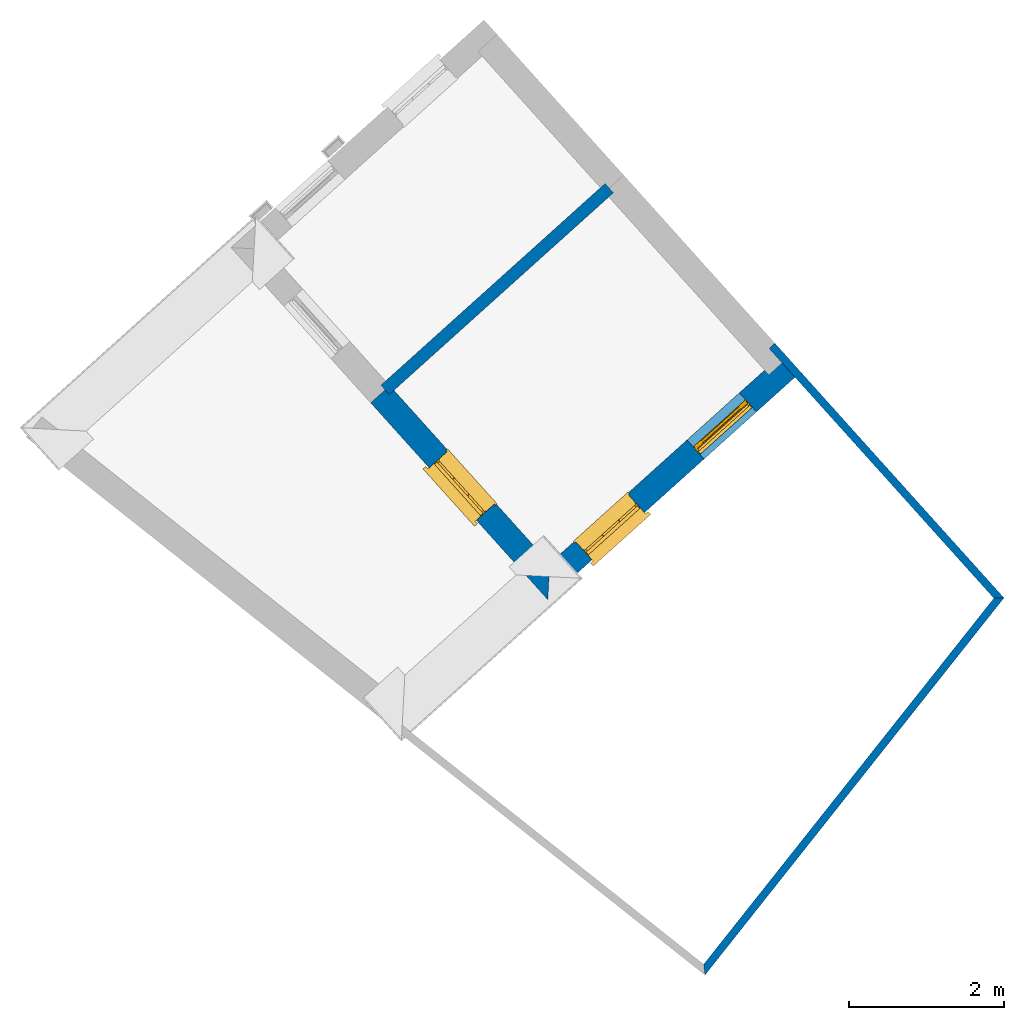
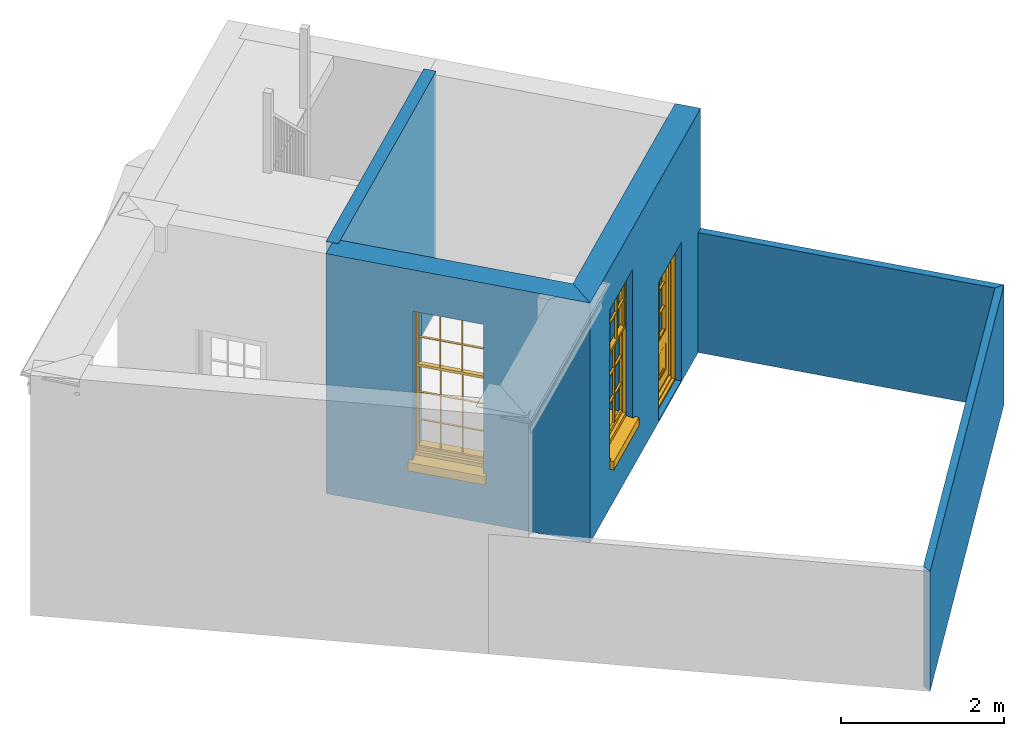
# One storey, part 2 of 6: 5 walls, 2 windows, 1 door, 3 openings.
"""IFC4 building model written with IfcOpenShell, lengths in metres."""

from ifc_helpers import new_model, si_unit, frame, origin, origin_with_axes, place, context, subcontext, project, spatial, polyline, outline, extrude, faceted_brep, source, transform, mapped, material, layer, layer_set, layer_usage, type_object, type_shapes, element, fill, save


model = new_model("IFC4")

# Units and contexts
model_context = context("Model", 3, world=origin_with_axes())
body_context = subcontext(model_context, "Body", "Model", "MODEL_VIEW")
ifc_project = project(units=[si_unit("PLANEANGLEUNIT", "RADIAN"), si_unit("MASSUNIT", "GRAM", prefix="KILO"), si_unit("FORCEUNIT", "NEWTON", prefix="KILO"), si_unit("LENGTHUNIT", "METRE"), si_unit("AREAUNIT", "SQUARE_METRE"), si_unit("VOLUMEUNIT", "CUBIC_METRE")], contexts=[model_context, model_context])

# Sites, building, storey
site_1_placement = place(None, origin_with_axes())
site_1 = spatial("IfcSite", under=ifc_project, at=site_1_placement, Name="Tamar")
site_2_placement = place(site_1_placement, origin_with_axes())
site_2 = spatial("IfcSite", under=site_1, at=site_2_placement, Name="Site plot-6", CompositionType="ELEMENT")
building_placement = place(None, origin_with_axes())
building = spatial("IfcBuilding", under=site_2, at=building_placement, Name="Building plot-6", CompositionType="ELEMENT")
storey_placement = place(None, frame((0.0, 0.0, 24.5), z_axis=(0.0, 0.0, 1.0), x_axis=(1.0, 0.0, 0.0)))
storey = spatial("IfcBuildingStorey", under=building, at=storey_placement, Name="plot-6 0", CompositionType="ELEMENT", Elevation=24.5)

# Wall, opening, window
ifc_material_1 = material(Name="Masonry")
ifc_layer_1 = layer(ifc_material_1, 0.33, ventilated=False)
ifc_layer_set_1 = layer_set([ifc_layer_1], Name="exterior_0.08_0.25")
ifc_layer_usage_1 = layer_usage(ifc_layer_set_1, "AXIS2", "POSITIVE", -0.25)
wall_type_1 = type_object("IfcWallType", Name="exterior_0.08_0.25", PredefinedType="SOLIDWALL", material=ifc_layer_set_1)
wall_1_placement = place(storey_placement, frame((235.645446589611, 280.373247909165, 0.0), z_axis=(0.0, 0.0, 1.0), x_axis=(0.668853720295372, -0.74339404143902, 0.0)))
wall_1 = element("IfcWall", 1, at=wall_1_placement, inside=storey, type_object=wall_type_1, material=ifc_layer_usage_1, Name="exterior", context=body_context, shape_type="SweptSolid", body=[
    extrude(outline(polyline([(-3.03267160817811e-15, 0.080000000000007), (-4.04272714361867e-15, -0.250000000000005), (3.41673048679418, -0.250000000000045), (3.08673048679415, 0.0799999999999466), (-3.03267160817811e-15, 0.080000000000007)])), origin_with_axes(), (0.0, 0.0, 1.0), 3.6),
])
opening_1_placement = place(wall_1_placement, frame((1.12836524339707, 0.0, 0.75)))
opening_1 = element("IfcOpeningElement", 2, at=opening_1_placement, cuts=wall_1, Name="My Opening", ObjectType="Opening", context=body_context, shape_type="SweptSolid", body=[
    extrude(outline(polyline([(0.0, -0.270000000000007), (0.909999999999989, -0.270000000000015), (0.909999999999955, 1.10000000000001), (-3.44169137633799e-14, 1.10000000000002), (0.0, -0.270000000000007)])), origin_with_axes(), (0.0, 0.0, 1.0), 2.23),
])
window_type = type_object("IfcWindowType", Name="sash_big_taller", PartitioningType="DOUBLE_PANEL_HORIZONTAL", PredefinedType="NOTDEFINED")
shared_shape_1 = source(origin(), body_context, "Body", "Brep", [
    faceted_brep([(0.033125, 0.145, 1.385209), (0.01, 0.145, 1.385209), (0.033125, 0.145, 1.786042), (0.876875, 0.145, 1.385209), (0.876875, 0.145, 1.786042), (0.9, 0.145, 1.385209), (0.876875, 0.145, 1.796042), (0.876875, 0.145, 2.196875), (0.9, 0.145, 2.22), (0.033125, 0.145, 2.196875), (0.033125, 0.145, 1.796042), (0.01, 0.145, 2.22), (0.876875, 0.115, 1.786042), (0.876875, 0.115, 1.385209), (0.9, 0.115, 1.347084), (0.033125, 0.115, 2.196875), (0.01, 0.115, 2.22), (0.033125, 0.115, 1.796042), (0.01, 0.115, 1.347084), (0.033125, 0.115, 1.385209), (0.033125, 0.115, 1.786042), (0.876875, 0.115, 2.196875), (0.876875, 0.115, 1.796042), (0.9, 0.115, 2.22), (0.033125, 0.145, 1.347084), (0.01, 0.145, 1.347084), (0.033125, 0.145, 0.94625), (0.876875, 0.145, 1.347084), (0.876875, 0.145, 0.94625), (0.9, 0.145, 1.347084), (0.876875, 0.145, 0.52625), (0.876875, 0.145, 0.125417), (0.9, 0.145, 0.077167), (0.033125, 0.145, 0.125417), (0.033125, 0.145, 0.52625), (0.01, 0.145, 0.077167), (-0.0425, 0.0, 0.01), (-0.0425, -0.05, 0.001667), (0.0, 0.0, 0.01), (0.9525, 0.0, 0.01), (0.91, 0.0, 0.01), (0.9525, -0.05, 0.001667), (-0.02, 0.33, 0.077167), (0.0, 0.33, 0.077167), (-0.02, 0.36, 0.077167), (0.0, 0.19, 0.077167), (0.01, 0.19, 0.077167), (0.91, 0.19, 0.077167), (0.91, 0.33, 0.077167), (0.9, 0.19, 0.077167), (0.93, 0.33, 0.077167), (0.93, 0.36, 0.077167), (0.01, 0.175, 1.385209), (0.9, 0.175, 1.385209), (0.876875, 0.175, 0.125417), (0.876875, 0.175, 0.52625), (0.9, 0.175, 0.077167), (0.876875, 0.175, 0.94625), (0.876875, 0.175, 1.347084), (0.033125, 0.175, 0.125417), (0.01, 0.175, 0.077167), (0.033125, 0.175, 0.52625), (0.033125, 0.175, 1.347084), (0.033125, 0.175, 0.94625), (-0.02, 0.33, 0.052167), (-0.02, 0.36, 0.052167), (0.93, 0.36, 0.052167), (0.93, 0.33, 0.052167), (0.91, 0.33, 0.052167), (0.0, 0.33, 0.052167), (0.91, 0.1, 0.026667), (0.0, 0.1, 0.026667), (-0.0425, -0.05, -0.123333), (0.9525, -0.05, -0.123333), (-0.0425, 0.0, -0.123333), (0.9525, 0.0, -0.123333), (0.01, 0.19, 2.22), (0.9, 0.19, 2.22), (0.0, 0.19, 2.23), (0.91, 0.19, 2.23), (0.01, 0.1, 0.077167), (0.9, 0.1, 0.077167), (0.592292, 0.145, 0.125417), (0.592292, 0.175, 0.125417), (0.317708, 0.175, 0.125417), (0.317708, 0.145, 0.125417), (0.592292, 0.145, 0.53625), (0.317708, 0.145, 0.53625), (0.317708, 0.145, 0.52625), (0.592292, 0.145, 0.52625), (0.592292, 0.175, 0.53625), (0.317708, 0.175, 0.53625), (0.592292, 0.115, 1.796042), (0.592292, 0.145, 1.796042), (0.317708, 0.145, 1.796042), (0.317708, 0.115, 1.796042), (0.317708, 0.115, 1.786042), (0.592292, 0.115, 1.786042), (0.317708, 0.145, 1.786042), (0.592292, 0.145, 1.786042), (0.602292, 0.115, 1.786042), (0.592292, 0.115, 1.385209), (0.602292, 0.115, 1.385209), (0.602292, 0.145, 1.385209), (0.592292, 0.145, 1.385209), (0.602292, 0.145, 1.786042), (0.876875, 0.145, 0.53625), (0.876875, 0.175, 0.53625), (0.602292, 0.175, 0.53625), (0.602292, 0.145, 0.53625), (0.317708, 0.175, 0.52625), (0.307708, 0.175, 0.125417), (0.307708, 0.175, 0.52625), (0.602292, 0.175, 0.52625), (0.602292, 0.175, 0.125417), (0.592292, 0.175, 0.52625), (0.307708, 0.175, 0.53625), (0.033125, 0.175, 0.53625), (0.317708, 0.175, 1.347084), (0.317708, 0.175, 0.94625), (0.307708, 0.175, 0.94625), (0.307708, 0.175, 1.347084), (0.602292, 0.175, 1.347084), (0.602292, 0.175, 0.94625), (0.592292, 0.175, 0.94625), (0.592292, 0.175, 1.347084), (0.307708, 0.145, 0.52625), (0.307708, 0.145, 0.125417), (0.307708, 0.145, 0.53625), (0.033125, 0.145, 0.53625), (0.307708, 0.145, 1.347084), (0.307708, 0.145, 0.94625), (0.592292, 0.145, 1.347084), (0.592292, 0.145, 0.94625), (0.317708, 0.145, 0.94625), (0.317708, 0.145, 1.347084), (0.602292, 0.145, 0.94625), (0.602292, 0.145, 1.347084), (0.602292, 0.145, 0.52625), (0.602292, 0.145, 0.125417), (0.307708, 0.115, 1.796042), (0.307708, 0.115, 1.786042), (0.307708, 0.115, 1.385209), (0.317708, 0.115, 1.385209), (0.317708, 0.115, 2.196875), (0.307708, 0.115, 2.196875), (0.602292, 0.115, 2.196875), (0.592292, 0.115, 2.196875), (0.602292, 0.115, 1.796042), (0.602292, 0.145, 1.796042), (0.307708, 0.145, 1.796042), (0.307708, 0.145, 2.196875), (0.317708, 0.145, 2.196875), (0.592292, 0.145, 2.196875), (0.602292, 0.145, 2.196875), (0.307708, 0.145, 1.786042), (0.317708, 0.145, 1.385209), (0.307708, 0.145, 1.385209), (0.876875, 0.175, 0.93625), (0.033125, 0.175, 0.93625), (0.033125, 0.145, 0.93625), (0.876875, 0.145, 0.93625), (0.91, 0.1, 2.23), (0.9, 0.1, 2.22), (0.01, 0.1, 2.22), (0.0, 0.1, 2.23), (0.91, 0.0, 0.0), (0.0, 0.0, 0.0), (0.91, 0.33, 0.0), (0.0, 0.33, 0.0), (0.317708, 0.145, 0.93625), (0.592292, 0.145, 0.93625), (0.317708, 0.175, 0.93625), (0.307708, 0.175, 0.93625), (0.602292, 0.175, 0.93625), (0.592292, 0.175, 0.93625), (0.307708, 0.145, 0.93625), (0.602292, 0.145, 0.93625)], [[[0, 1, 2]], [[3, 4, 5]], [[6, 7, 8]], [[9, 10, 11]], [[12, 13, 14]], [[15, 16, 17]], [[18, 19, 20]], [[21, 22, 23]], [[24, 25, 26]], [[27, 28, 29]], [[30, 31, 32]], [[33, 34, 35]], [[14, 27, 29]], [[25, 24, 18]], [[36, 37, 38]], [[39, 40, 41]], [[42, 43, 44]], [[45, 46, 43]], [[47, 48, 49]], [[50, 51, 48]], [[1, 0, 52]], [[5, 53, 3]], [[54, 55, 56]], [[57, 58, 53]], [[59, 60, 61]], [[62, 63, 52]], [[48, 43, 46, 49]], [[51, 44, 43, 48]], [[64, 42, 44, 65]], [[65, 44, 51, 66]], [[66, 51, 50, 67]], [[65, 66, 68, 69]], [[60, 56, 49, 46]], [[70, 71, 38, 40]], [[37, 41, 40, 38]], [[37, 72, 73, 41]], [[74, 75, 73, 72]], [[8, 11, 76, 77]], [[76, 78, 79, 77]], [[32, 35, 80, 81]], [[81, 80, 71, 70]], [[82, 83, 84, 85]], [[86, 87, 88, 89]], [[86, 90, 91, 87]], [[92, 93, 94, 95]], [[92, 95, 96, 97]], [[96, 98, 99, 97]], [[100, 97, 101, 102]], [[103, 104, 99, 105]], [[97, 99, 104, 101]], [[102, 103, 105, 100]], [[106, 107, 108, 109]], [[110, 84, 111, 112]], [[113, 114, 83, 115]], [[116, 112, 61, 117]], [[90, 115, 110, 91]], [[118, 119, 120, 121]], [[122, 123, 124, 125]], [[113, 108, 107, 55]], [[126, 112, 111, 127]], [[34, 61, 112, 126]], [[89, 115, 83, 82]], [[88, 110, 115, 89]], [[85, 84, 110, 88]], [[128, 116, 117, 129]], [[130, 121, 120, 131]], [[132, 125, 124, 133]], [[134, 119, 118, 135]], [[136, 123, 122, 137]], [[138, 113, 55, 30]], [[139, 114, 113, 138]], [[138, 30, 106, 109]], [[88, 126, 127, 85]], [[138, 89, 82, 139]], [[137, 132, 133, 136]], [[128, 129, 34, 126]], [[135, 130, 131, 134]], [[140, 17, 20, 141]], [[96, 141, 142, 143]], [[144, 145, 140, 95]], [[146, 147, 92, 148]], [[100, 12, 22, 148]], [[149, 6, 4, 105]], [[94, 150, 151, 152]], [[149, 93, 153, 154]], [[99, 98, 94, 93]], [[155, 2, 10, 150]], [[156, 157, 155, 98]], [[141, 155, 157, 142]], [[20, 2, 155, 141]], [[143, 156, 98, 96]], [[140, 150, 10, 17]], [[145, 151, 150, 140]], [[147, 153, 93, 92]], [[95, 94, 152, 144]], [[22, 6, 149, 148]], [[148, 149, 154, 146]], [[100, 105, 4, 12]], [[109, 86, 89, 138]], [[108, 113, 115, 90]], [[91, 110, 112, 116]], [[87, 128, 126, 88]], [[97, 100, 148, 92]], [[141, 96, 95, 140]], [[98, 155, 150, 94]], [[105, 99, 93, 149]], [[143, 101, 104, 156]], [[135, 118, 125, 132]], [[144, 152, 153, 147]], [[127, 111, 59, 33]], [[15, 9, 151, 145]], [[146, 154, 7, 21]], [[31, 54, 114, 139]], [[36, 74, 72, 37]], [[39, 41, 73, 75]], [[18, 14, 101, 143]], [[23, 16, 144, 147]], [[83, 56, 60, 84]], [[52, 53, 125, 118]], [[53, 52, 156, 104]], [[11, 8, 153, 152]], [[14, 18, 135, 132]], [[2, 1, 11, 10]], [[8, 5, 4, 6]], [[57, 53, 56, 158]], [[60, 52, 63, 159]], [[26, 25, 35, 160]], [[32, 29, 28, 161]], [[14, 23, 22, 12]], [[18, 20, 17, 16]], [[19, 0, 2, 20]], [[17, 10, 9, 15]], [[12, 4, 3, 13]], [[21, 7, 6, 22]], [[27, 58, 57, 28]], [[30, 55, 54, 31]], [[33, 59, 61, 34]], [[26, 63, 62, 24]], [[5, 8, 77, 53]], [[76, 11, 1, 52]], [[46, 45, 78, 76]], [[49, 77, 79, 47]], [[70, 162, 163, 81]], [[71, 80, 164, 165]], [[19, 142, 157, 0]], [[102, 13, 3, 103]], [[121, 130, 24, 62]], [[29, 32, 81, 14]], [[80, 35, 25, 18]], [[60, 46, 76, 52]], [[77, 49, 56, 53]], [[23, 14, 81, 163]], [[16, 164, 80, 18]], [[35, 85, 127]], [[127, 33, 35]], [[139, 82, 32]], [[32, 31, 139]], [[32, 82, 85, 35]], [[102, 101, 14]], [[14, 13, 102]], [[18, 143, 142]], [[142, 19, 18]], [[146, 21, 23]], [[23, 147, 146]], [[16, 15, 145]], [[145, 144, 16]], [[11, 152, 151]], [[151, 9, 11]], [[154, 153, 8]], [[8, 7, 154]], [[23, 163, 164, 16]], [[162, 165, 164, 163]], [[52, 118, 121]], [[121, 62, 52]], [[125, 53, 122]], [[58, 122, 53]], [[27, 137, 122, 58]], [[56, 83, 114]], [[114, 54, 56]], [[111, 84, 60]], [[60, 59, 111]], [[137, 27, 14]], [[14, 132, 137]], [[130, 135, 18]], [[18, 24, 130]], [[157, 156, 52]], [[52, 0, 157]], [[103, 3, 53]], [[53, 104, 103]], [[79, 78, 165, 162]], [[78, 45, 71, 165]], [[162, 70, 47, 79]], [[166, 75, 74, 167]], [[68, 66, 67]], [[48, 68, 67, 50]], [[69, 64, 65]], [[42, 64, 69, 43]], [[69, 68, 168, 169]], [[70, 68, 48, 47]], [[166, 168, 68, 70]], [[43, 69, 71, 45]], [[69, 169, 167, 71]], [[168, 166, 167, 169]], [[38, 167, 74, 36]], [[71, 167, 38]], [[39, 75, 166, 40]], [[40, 166, 70]], [[133, 134, 170, 171]], [[133, 124, 119, 134]], [[28, 57, 123, 136]], [[172, 91, 116, 173]], [[174, 108, 90, 175]], [[120, 173, 159, 63]], [[124, 175, 172, 119]], [[174, 123, 57, 158]], [[176, 173, 116, 128]], [[160, 159, 173, 176]], [[171, 175, 90, 86]], [[170, 172, 175, 171]], [[87, 91, 172, 170]], [[131, 120, 63, 26]], [[177, 174, 158, 161]], [[109, 108, 174, 177]], [[177, 161, 28, 136]], [[170, 176, 128, 87]], [[177, 171, 86, 109]], [[131, 26, 160, 176]], [[136, 133, 171, 177]], [[123, 174, 175, 124]], [[119, 172, 173, 120]], [[134, 131, 176, 170]], [[129, 117, 159, 160]], [[161, 158, 107, 106]], [[35, 34, 129]], [[35, 129, 160]], [[32, 106, 30]], [[32, 161, 106]], [[56, 55, 107]], [[56, 107, 158]], [[60, 117, 61]], [[60, 159, 117]]]),
])
type_shapes(window_type, [shared_shape_1])
window_1_placement = place(storey_placement, frame((236.199441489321, 279.353837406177, 0.75), z_axis=(0.0, 0.0, 1.0), x_axis=(0.608656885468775, -0.676488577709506, 0.0)))
window_1 = element("IfcWindow", 3, at=window_1_placement, inside=storey, type_object=window_type, Name="bedroom sahn window", OverallHeight=2.23, OverallWidth=0.91, context=body_context, shape_type="MappedRepresentation", body=[
    mapped(shared_shape_1, transform((0.0, 0.0, 0.0), scale=1.0)),
])
fill(opening_1, window_1)

# Wall, openings, window, door
wall_2_placement = place(storey_placement, frame((237.763526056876, 278.019119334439, 0.0), z_axis=(0.0, 0.0, 1.0), x_axis=(0.743394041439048, 0.668853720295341, 0.0)))
wall_2 = element("IfcWall", 4, at=wall_2_placement, inside=storey, type_object=wall_type_1, material=ifc_layer_usage_1, Name="exterior", context=body_context, shape_type="SweptSolid", body=[
    extrude(outline(polyline([(0.0799999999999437, 0.07999999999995), (-0.250000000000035, -0.250000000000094), (4.14063342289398, -0.25000000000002), (4.14063342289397, 0.0799999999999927), (0.0799999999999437, 0.07999999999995)])), origin_with_axes(), (0.0, 0.0, 1.0), 3.6),
])
opening_2_placement = place(wall_2_placement, frame((0.517658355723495, 0.0, 0.75)))
opening_2 = element("IfcOpeningElement", 5, at=opening_2_placement, cuts=wall_2, Name="My Opening", ObjectType="Opening", context=body_context, shape_type="SweptSolid", body=[
    extrude(outline(polyline([(0.0, -0.269999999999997), (0.909999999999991, -0.270000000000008), (0.91000000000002, 1.10000000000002), (2.91988655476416e-14, 1.10000000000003), (0.0, -0.269999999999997)])), origin_with_axes(), (0.0, 0.0, 1.0), 2.23),
])
opening_3_placement = place(wall_2_placement, frame((2.46297506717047, 0.0, 0.0199999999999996)))
opening_3 = element("IfcOpeningElement", 6, at=opening_3_placement, cuts=wall_2, Name="My Opening", ObjectType="Opening", context=body_context, shape_type="SweptSolid", body=[
    extrude(outline(polyline([(0.0, -0.270000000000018), (0.909999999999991, -0.270000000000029), (0.910000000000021, 1.1), (2.93098878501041e-14, 1.10000000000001), (0.0, -0.270000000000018)])), origin_with_axes(), (0.0, 0.0, 1.0), 2.08),
])
window_2_placement = place(storey_placement, frame((238.328940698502, 278.164640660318, 0.75), z_axis=(0.0, 0.0, 1.0), x_axis=(0.676488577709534, 0.608656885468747, 0.0)))
window_2 = element("IfcWindow", 7, at=window_2_placement, inside=storey, type_object=window_type, Name="bedroom sahn window", OverallHeight=2.23, OverallWidth=0.91, context=body_context, shape_type="MappedRepresentation", body=[
    mapped(shared_shape_1, transform((0.0, 0.0, 0.0), scale=1.0)),
])
fill(opening_2, window_2)
door_type = type_object("IfcDoorType", Name="door_panelled", OperationType="SINGLE_SWING_LEFT", PredefinedType="NOTDEFINED")
shared_shape_2 = source(origin(), body_context, "Body", "Brep", [
    faceted_brep([(0.545, 0.195, 0.265), (0.745, 0.195, 0.265), (0.745, 0.2, 0.265), (0.545, 0.2, 0.265), (0.745, 0.2, 0.58), (0.545, 0.2, 0.58), (0.545, 0.195, 0.58), (0.515, 0.19, 0.235), (0.775, 0.19, 0.235), (0.745, 0.195, 0.58), (0.515, 0.19, 0.61), (0.515, 0.185, 0.235), (0.775, 0.185, 0.235), (0.775, 0.19, 0.61), (0.515, 0.185, 0.61), (0.785, 0.185, 0.225), (0.505, 0.185, 0.225), (0.775, 0.185, 0.61), (0.505, 0.185, 0.62), (0.785, 0.185, 0.62), (0.505, 0.18, 0.225), (0.785, 0.18, 0.225), (0.505, 0.18, 0.62), (0.785, 0.18, 0.62), (0.883, 0.18, 0.075), (0.898, 0.18, 0.075), (0.405, 0.18, 0.62), (0.405, 0.18, 0.225), (0.027, 0.18, 0.075), (0.785, 0.18, 0.82), (0.125, 0.18, 0.82), (0.405, 0.185, 0.62), (0.405, 0.185, 0.225), (0.898, 0.18, 2.068), (0.027, 0.17, 0.075), (0.883, 0.17, 0.075), (0.125, 0.18, 0.225), (0.012, 0.18, 0.075), (0.785, 0.19, 0.82), (0.125, 0.19, 0.82), (0.125, 0.18, 0.62), (0.125, 0.185, 0.62), (0.395, 0.185, 0.61), (0.395, 0.185, 0.235), (0.125, 0.185, 0.225), (0.785, 0.18, 1.895), (0.027, 0.14, 0.045), (0.883, 0.14, 0.045), (0.558333, 0.19, 0.83), (0.351667, 0.19, 0.83), (0.125, 0.18, 1.895), (0.125, 0.19, 1.895), (0.785, 0.19, 1.895), (0.012, 0.18, 2.068), (0.135, 0.185, 0.61), (0.395, 0.19, 0.61), (0.395, 0.19, 0.235), (0.135, 0.185, 0.235), (0.027, 0.14, 0.027), (0.883, 0.14, 0.027), (0.568333, 0.19, 0.83), (0.558333, 0.22, 0.83), (0.351667, 0.22, 0.83), (0.341667, 0.19, 0.83), (0.135, 0.19, 1.185), (0.135, 0.19, 1.53), (0.775, 0.19, 1.53), (0.775, 0.19, 1.185), (0.135, 0.19, 0.61), (0.365, 0.195, 0.58), (0.365, 0.195, 0.265), (0.135, 0.19, 0.235), (0.568333, 0.19, 1.175), (0.558333, 0.19, 1.175), (0.775, 0.19, 0.83), (0.558333, 0.22, 1.175), (0.785, 0.22, 0.82), (0.125, 0.22, 0.82), (0.351667, 0.22, 1.175), (0.351667, 0.19, 1.175), (0.341667, 0.19, 1.175), (0.135, 0.19, 0.83), (0.135, 0.19, 1.175), (0.135, 0.22, 1.185), (0.135, 0.22, 1.53), (0.135, 0.19, 1.54), (0.351667, 0.19, 1.885), (0.558333, 0.19, 1.885), (0.775, 0.22, 1.53), (0.775, 0.22, 1.185), (0.775, 0.19, 1.175), (0.775, 0.19, 1.54), (0.165, 0.195, 0.58), (0.365, 0.2, 0.58), (0.365, 0.2, 0.265), (0.165, 0.195, 0.265), (0.568333, 0.22, 0.83), (0.568333, 0.22, 1.175), (0.568333, 0.19, 1.185), (0.558333, 0.19, 1.185), (0.775, 0.22, 0.83), (0.785, 0.23, 0.82), (0.125, 0.23, 0.82), (0.341667, 0.22, 0.83), (0.341667, 0.22, 1.175), (0.351667, 0.19, 1.185), (0.341667, 0.19, 1.185), (0.135, 0.22, 0.83), (0.341667, 0.22, 1.185), (0.125, 0.22, 1.895), (0.341667, 0.22, 1.53), (0.341667, 0.19, 1.53), (0.135, 0.19, 1.885), (0.341667, 0.19, 1.54), (0.341667, 0.19, 1.885), (0.558333, 0.22, 1.885), (0.351667, 0.22, 1.885), (0.568333, 0.19, 1.885), (0.785, 0.22, 1.895), (0.568333, 0.22, 1.185), (0.568333, 0.19, 1.53), (0.568333, 0.22, 1.53), (0.568333, 0.19, 1.54), (0.775, 0.19, 1.885), (0.165, 0.2, 0.58), (0.165, 0.2, 0.265), (0.775, 0.22, 1.175), (0.558333, 0.19, 1.53), (0.351667, 0.22, 1.185), (0.558333, 0.22, 1.185), (0.505, 0.23, 0.62), (0.405, 0.23, 0.62), (0.125, 0.23, 1.895), (0.785, 0.23, 1.895), (0.351667, 0.19, 1.53), (0.135, 0.22, 1.175), (0.135, 0.22, 1.54), (0.341667, 0.22, 1.54), (0.135, 0.22, 1.885), (0.351667, 0.19, 1.54), (0.558333, 0.22, 1.54), (0.558333, 0.19, 1.54), (0.351667, 0.22, 1.54), (0.775, 0.22, 1.54), (0.568333, 0.22, 1.54), (0.775, 0.22, 1.885), (0.558333, 0.22, 1.53), (0.405, 0.23, 0.225), (0.505, 0.23, 0.225), (0.125, 0.23, 0.62), (0.785, 0.23, 0.62), (0.012, 0.23, 2.068), (0.898, 0.23, 2.068), (0.351667, 0.22, 1.53), (0.341667, 0.22, 1.885), (0.568333, 0.22, 1.885), (0.405, 0.225, 0.225), (0.405, 0.225, 0.62), (0.505, 0.225, 0.62), (0.505, 0.225, 0.225), (0.898, 0.23, 0.027), (0.012, 0.23, 0.027), (0.125, 0.225, 0.62), (0.785, 0.225, 0.62), (0.395, 0.225, 0.235), (0.395, 0.225, 0.61), (0.125, 0.23, 0.225), (0.125, 0.225, 0.225), (0.515, 0.225, 0.61), (0.515, 0.225, 0.235), (0.785, 0.23, 0.225), (0.785, 0.225, 0.225), (0.135, 0.225, 0.61), (0.775, 0.225, 0.61), (0.135, 0.225, 0.235), (0.395, 0.22, 0.235), (0.395, 0.22, 0.61), (0.515, 0.22, 0.61), (0.515, 0.22, 0.235), (0.775, 0.225, 0.235), (0.135, 0.22, 0.61), (0.775, 0.22, 0.61), (0.135, 0.22, 0.235), (0.365, 0.215, 0.265), (0.365, 0.215, 0.58), (0.545, 0.215, 0.58), (0.545, 0.215, 0.265), (0.775, 0.22, 0.235), (0.165, 0.215, 0.58), (0.745, 0.215, 0.58), (0.165, 0.215, 0.265), (0.365, 0.21, 0.58), (0.365, 0.21, 0.265), (0.545, 0.21, 0.58), (0.545, 0.21, 0.265), (0.745, 0.215, 0.265), (0.165, 0.21, 0.58), (0.745, 0.21, 0.58), (0.165, 0.21, 0.265), (0.745, 0.21, 0.265), (0.885, 0.178, 0.025), (0.025, 0.178, 0.025), (0.025, 0.15, 0.025), (0.885, 0.15, 0.025), (0.9, 0.23, 0.025), (0.01, 0.23, 0.025), (0.9, 0.178, 0.025), (0.91, 0.23, 0.0), (0.0, 0.23, 0.0), (0.01, 0.178, 0.025), (0.9, 0.178, 2.07), (0.9, 0.23, 2.07), (0.885, 0.178, 2.055), (0.91, 0.23, 2.08), (0.01, 0.23, 2.07), (0.0, 0.23, 2.08), (0.01, 0.178, 2.07), (0.025, 0.178, 2.055), (0.0, 0.1, 2.08), (0.91, 0.1, 2.08), (0.01, 0.1, 2.07), (0.9, 0.1, 2.07), (0.01, 0.15, 2.07), (0.9, 0.15, 2.07), (0.0, 0.1, 0.0), (0.91, 0.1, 0.0), (0.01, 0.1, 0.025), (0.9, 0.1, 0.025), (0.01, 0.15, 0.025), (0.025, 0.15, 2.055), (0.9, 0.15, 0.025), (0.885, 0.15, 2.055), (0.898, 0.18, 0.027), (0.012, 0.18, 0.027), (0.883, 0.18, 0.027), (0.027, 0.18, 0.027)], [[[0, 1, 2, 3]], [[2, 4, 5, 3]], [[0, 3, 5, 6]], [[1, 0, 7, 8]], [[9, 4, 2, 1]], [[9, 6, 5, 4]], [[0, 6, 10, 7]], [[8, 7, 11, 12]], [[8, 13, 9, 1]], [[13, 10, 6, 9]], [[7, 10, 14, 11]], [[15, 12, 11, 16]], [[12, 17, 13, 8]], [[17, 14, 10, 13]], [[18, 16, 11, 14]], [[15, 19, 17, 12]], [[15, 16, 20, 21]], [[14, 17, 19, 18]], [[16, 18, 22, 20]], [[21, 23, 19, 15]], [[24, 25, 21, 20]], [[23, 22, 18, 19]], [[20, 22, 26, 27]], [[23, 21, 25]], [[28, 24, 20, 27]], [[22, 23, 29]], [[29, 30, 26, 22]], [[27, 26, 31, 32]], [[23, 25, 33, 29]], [[34, 35, 24, 28]], [[28, 27, 36, 37]], [[38, 39, 30, 29]], [[26, 30, 40]], [[26, 40, 41, 31]], [[42, 43, 32, 31]], [[32, 44, 36, 27]], [[33, 45, 29]], [[46, 47, 35, 34]], [[36, 40, 37]], [[39, 38, 48, 49]], [[50, 30, 39, 51]], [[29, 45, 52, 38]], [[53, 37, 40, 30]], [[44, 41, 40, 36]], [[31, 41, 54, 42]], [[43, 42, 55, 56]], [[57, 44, 32, 43]], [[50, 45, 33, 53]], [[47, 46, 58, 59]], [[60, 48, 38]], [[49, 48, 61, 62]], [[49, 63, 39]], [[50, 53, 30]], [[51, 39, 64, 65]], [[45, 50, 51, 52]], [[66, 67, 38, 52]], [[57, 54, 41, 44]], [[42, 54, 68, 55]], [[56, 55, 69, 70]], [[56, 71, 57, 43]], [[60, 72, 73, 48]], [[60, 38, 74]], [[48, 73, 75, 61]], [[76, 77, 62, 61]], [[62, 78, 79, 49]], [[49, 79, 80, 63]], [[63, 81, 39]], [[82, 64, 39]], [[65, 64, 83, 84]], [[85, 51, 65]], [[52, 51, 86, 87]], [[88, 89, 67, 66]], [[90, 38, 67]], [[91, 66, 52]], [[71, 68, 54, 57]], [[55, 68, 92, 69]], [[69, 93, 94, 70]], [[70, 95, 71, 56]], [[96, 97, 72, 60]], [[73, 72, 98, 99]], [[74, 38, 90]], [[100, 96, 60, 74]], [[75, 73, 79, 78]], [[61, 75, 97, 96]], [[101, 102, 77, 76]], [[77, 103, 62]], [[96, 76, 61]], [[103, 104, 78, 62]], [[80, 79, 105, 106]], [[63, 80, 104, 103]], [[81, 63, 103, 107]], [[81, 82, 39]], [[106, 64, 82, 80]], [[106, 108, 83, 64]], [[84, 83, 77, 109]], [[110, 111, 65, 84]], [[112, 51, 85]], [[113, 85, 65, 111]], [[114, 86, 51]], [[115, 87, 86, 116]], [[117, 52, 87]], [[118, 76, 89, 88]], [[119, 98, 67, 89]], [[120, 121, 88, 66]], [[67, 98, 72, 90]], [[91, 122, 120, 66]], [[91, 52, 123]], [[95, 92, 68, 71]], [[69, 92, 124, 93]], [[94, 93, 124, 125]], [[94, 125, 95, 70]], [[72, 97, 126, 90]], [[127, 99, 98, 120]], [[99, 105, 79, 73]], [[74, 90, 126, 100]], [[96, 100, 76]], [[128, 129, 75, 78]], [[97, 75, 129, 119]], [[130, 131, 102, 101]], [[109, 77, 102, 132]], [[133, 101, 76, 118]], [[77, 107, 103]], [[78, 104, 108, 128]], [[111, 106, 105, 134]], [[104, 80, 82, 135]], [[107, 135, 82, 81]], [[110, 108, 106, 111]], [[104, 135, 83, 108]], [[83, 135, 77]], [[136, 84, 109]], [[110, 84, 136, 137]], [[114, 51, 112]], [[85, 136, 138, 112]], [[113, 137, 136, 85]], [[111, 134, 139, 113]], [[86, 114, 113, 139]], [[140, 141, 87, 115]], [[139, 142, 116, 86]], [[109, 118, 115, 116]], [[117, 123, 52]], [[117, 87, 141, 122]], [[126, 89, 76]], [[143, 118, 88]], [[120, 98, 119, 121]], [[119, 89, 126, 97]], [[144, 143, 88, 121]], [[144, 122, 91, 143]], [[127, 120, 122, 141]], [[143, 91, 123, 145]], [[124, 92, 95, 125]], [[146, 129, 99, 127]], [[99, 129, 128, 105]], [[100, 126, 76]], [[121, 119, 129, 146]], [[147, 131, 130, 148]], [[131, 149, 102]], [[130, 101, 150]], [[102, 151, 132]], [[118, 109, 132, 133]], [[101, 133, 152]], [[107, 77, 135]], [[153, 128, 108, 110]], [[134, 105, 128, 153]], [[109, 138, 136]], [[153, 110, 137, 142]], [[154, 114, 112, 138]], [[137, 113, 114, 154]], [[141, 139, 134, 127]], [[141, 140, 142, 139]], [[144, 140, 115, 155]], [[142, 137, 154, 116]], [[155, 115, 118]], [[116, 154, 109]], [[117, 155, 145, 123]], [[122, 144, 155, 117]], [[143, 145, 118]], [[121, 146, 140, 144]], [[146, 127, 134, 153]], [[156, 157, 131, 147]], [[148, 130, 158, 159]], [[148, 160, 161, 147]], [[157, 162, 149, 131]], [[161, 151, 102, 149]], [[101, 152, 160, 150]], [[163, 158, 130, 150]], [[151, 152, 133, 132]], [[154, 138, 109]], [[142, 140, 146, 153]], [[145, 155, 118]], [[157, 156, 164, 165]], [[147, 166, 167, 156]], [[168, 169, 159, 158]], [[170, 148, 159, 171]], [[148, 170, 160]], [[166, 147, 161]], [[172, 162, 157, 165]], [[166, 149, 162, 167]], [[166, 161, 149]], [[150, 160, 170]], [[163, 173, 168, 158]], [[171, 163, 150, 170]], [[174, 164, 156, 167]], [[175, 176, 165, 164]], [[169, 168, 177, 178]], [[171, 159, 169, 179]], [[167, 162, 172, 174]], [[176, 180, 172, 165]], [[179, 173, 163, 171]], [[181, 177, 168, 173]], [[164, 174, 182, 175]], [[183, 184, 176, 175]], [[178, 177, 185, 186]], [[179, 169, 178, 187]], [[174, 172, 180, 182]], [[184, 188, 180, 176]], [[187, 181, 173, 179]], [[189, 185, 177, 181]], [[175, 182, 190, 183]], [[191, 184, 183, 192]], [[185, 193, 194, 186]], [[187, 178, 186, 195]], [[182, 180, 188, 190]], [[191, 196, 188, 184]], [[195, 189, 181, 187]], [[197, 193, 185, 189]], [[183, 190, 198, 192]], [[198, 196, 191, 192]], [[194, 193, 197, 199]], [[195, 186, 194, 199]], [[188, 196, 198, 190]], [[197, 189, 195, 199]], [[200, 201, 202, 203]], [[201, 200, 204, 205]], [[206, 204, 200]], [[204, 207, 208, 205]], [[209, 201, 205]], [[210, 211, 204, 206]], [[206, 200, 212, 210]], [[211, 213, 207, 204]], [[214, 205, 208, 215]], [[216, 217, 201, 209]], [[205, 214, 216, 209]], [[216, 214, 211, 210]], [[210, 212, 217, 216]], [[214, 215, 213, 211]], [[218, 219, 213, 215]], [[219, 218, 220, 221]], [[221, 220, 222, 223]], [[215, 208, 224, 218]], [[225, 224, 208, 207]], [[224, 226, 220, 218]], [[224, 225, 227, 226]], [[219, 225, 207, 213]], [[228, 222, 220, 226]], [[219, 221, 227, 225]], [[226, 227, 203, 202]], [[202, 229, 222, 228]], [[228, 226, 202]], [[227, 221, 223, 230]], [[230, 203, 227]], [[217, 229, 202, 201]], [[231, 223, 222, 229]], [[230, 223, 231, 203]], [[231, 229, 217, 212]], [[212, 200, 203, 231]], [[33, 152, 151, 53]], [[25, 160, 152, 33]], [[161, 37, 53, 151]], [[232, 160, 25]], [[161, 233, 37]], [[160, 232, 234]], [[24, 234, 232, 25]], [[233, 161, 235]], [[37, 233, 235, 28]], [[161, 160, 234, 235]], [[35, 47, 234, 24]], [[28, 235, 46, 34]], [[58, 235, 234, 59]], [[59, 234, 47]], [[58, 46, 235]]]),
])
type_shapes(door_type, [shared_shape_2])
door_placement = place(storey_placement, frame((239.775077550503, 279.465772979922, 0.0199999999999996), z_axis=(0.0, 0.0, 1.0), x_axis=(0.676488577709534, 0.608656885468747, 0.0)))
door = element("IfcDoor", 8, at=door_placement, inside=storey, type_object=door_type, Name="bedroom sahn door", OverallHeight=2.08, OverallWidth=0.91, context=body_context, shape_type="MappedRepresentation", body=[
    mapped(shared_shape_2, transform((0.0, 0.0, 0.0), scale=1.0)),
])
fill(opening_3, door)

# Walls
ifc_material_2 = material(Name="Masonry")
ifc_layer_2 = layer(ifc_material_2, 0.16, ventilated=False)
ifc_layer_set_2 = layer_set([ifc_layer_2], Name="interior_0.08_0.08")
ifc_layer_usage_2 = layer_usage(ifc_layer_set_2, "AXIS2", "POSITIVE", -0.08)
wall_type_2 = type_object("IfcWallType", Name="interior_0.08_0.08", PredefinedType="SOLIDWALL", material=ifc_layer_set_2)
wall_3_placement = place(storey_placement, frame((238.537720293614, 282.975512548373, 0.0), z_axis=(0.0, 0.0, 1.0), x_axis=(-0.743394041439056, -0.668853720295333, 0.0)))
element("IfcWall", 9, at=wall_3_placement, inside=storey, type_object=wall_type_2, material=ifc_layer_usage_2, Name="interior", context=body_context, shape_type="SweptSolid", body=[
    extrude(outline(polyline([(-2.62337227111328e-14, 0.0799999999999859), (2.62239255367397e-14, -0.0799999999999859), (3.89063342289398, -0.0799999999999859), (3.89063342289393, 0.0799999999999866), (-2.62337227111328e-14, 0.0799999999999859)])), origin_with_axes(), (0.0, 0.0, 1.0), 3.6),
])
ifc_material_3 = material(Name="Masonry")
ifc_layer_3 = layer(ifc_material_3, 0.1, ventilated=False)
ifc_layer_set_3 = layer_set([ifc_layer_3], Name="fence_-0.15_0.25")
ifc_layer_usage_3 = layer_usage(ifc_layer_set_3, "AXIS2", "POSITIVE", -0.25)
wall_type_3 = type_object("IfcWallType", Name="fence_-0.15_0.25", PredefinedType="SOLIDWALL", material=ifc_layer_set_3)
wall_4_placement = place(storey_placement, frame((239.732036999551, 273.171671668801, 0.0), z_axis=(0.0, 0.0, 1.0), x_axis=(0.621192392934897, 0.783658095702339, 0.0)))
element("IfcWall", 10, at=wall_4_placement, inside=storey, type_object=wall_type_3, material=ifc_layer_usage_3, Name="fence", context=body_context, shape_type="SweptSolid", body=[
    extrude(outline(polyline([(-0.149999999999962, -0.150000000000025), (-0.250000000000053, -0.250000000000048), (5.96151645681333, -0.250000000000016), (5.87703695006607, -0.149999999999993), (-0.149999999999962, -0.150000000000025)])), origin_with_axes(), (0.0, 0.0, 1.0), 1.8),
])
wall_5_placement = place(storey_placement, frame((243.304090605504, 277.677954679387, 0.0), z_axis=(0.0, 0.0, 1.0), x_axis=(-0.668853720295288, 0.743394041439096, 0.0)))
element("IfcWall", 11, at=wall_5_placement, inside=storey, type_object=wall_type_3, material=ifc_layer_usage_3, Name="fence", context=body_context, shape_type="SweptSolid", body=[
    extrude(outline(polyline([(-0.126719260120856, -0.149999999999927), (-0.21119876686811, -0.249999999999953), (4.20944698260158, -0.250000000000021), (4.20944698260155, -0.150000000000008), (-0.126719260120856, -0.149999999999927)])), origin_with_axes(), (0.0, 0.0, 1.0), 1.8),
])

save(model, "model.ifc")
